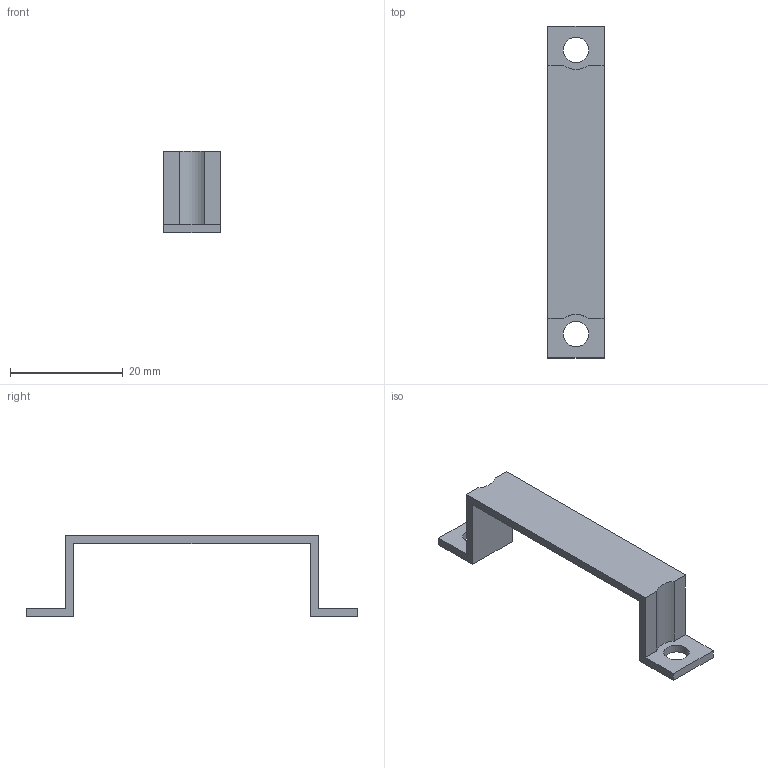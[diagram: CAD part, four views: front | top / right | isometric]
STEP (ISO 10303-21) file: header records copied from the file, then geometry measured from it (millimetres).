
FILE_DESCRIPTION(/* description */ (''),/* implementation_level */ '2;1');
FILE_NAME(/* name */ 'D:\ZaslepkaMereniDrzak.stp',/* time_stamp */ '2023-05-16T22:54:11+02:00',/* author */ ('jakub'),/* organization */ (''),/* preprocessor_version */ 'ST-DEVELOPER v15.2',/* originating_system */ 'Autodesk Inventor 2014',/* authorisation */ '');
FILE_SCHEMA (('AUTOMOTIVE_DESIGN { 1 0 10303 214 3 1 1 }'));
Length unit declared in the file: millimetre
Products named in the file (1): ZaslepkaMereniDrzak
Bounding box: 10 x 59 x 14.5 mm (x, y, z)
Volume: 1169.7 mm3; surface area: 1972.6 mm2
Topology: 1 solids, 1 shells, 20 faces, 56 edges, 38 vertices
Faces by surface type: plane 16, cylinder 4
Full cylindrical faces by diameter (mm): 4.5 x2
Entity records: 648 total; most frequent: CARTESIAN_POINT 109, ORIENTED_EDGE 104, DIRECTION 102, EDGE_CURVE 52, LINE 44, VECTOR 44, VERTEX_POINT 36, AXIS2_PLACEMENT_3D 29
